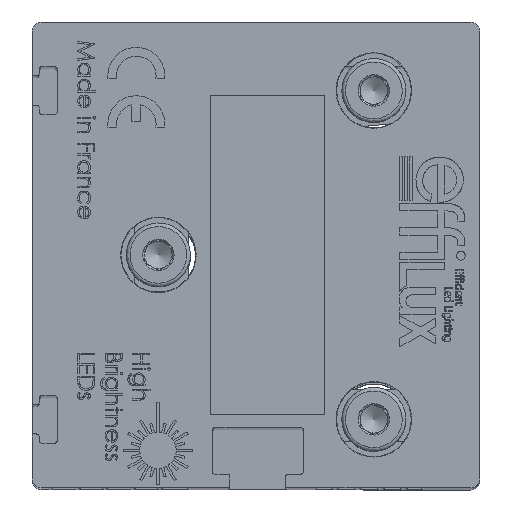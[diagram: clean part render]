
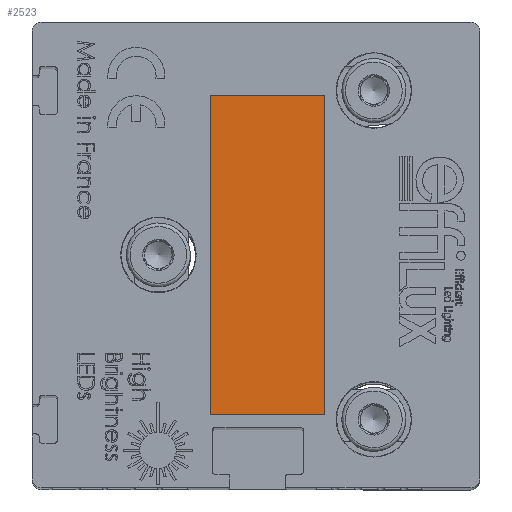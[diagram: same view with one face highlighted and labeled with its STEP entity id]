
A CAD part, top view. The second image highlights one B-rep face of the part: STEP entity #2523.
In plain terms, the highlighted planar face has unit normal (0, 0, 1).
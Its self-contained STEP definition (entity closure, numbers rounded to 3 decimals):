
#393 = CARTESIAN_POINT ( 'NONE',  ( -5., 17.5, 134.9 ) ) ;
#1987 = VECTOR ( 'NONE', #90012, 1000. ) ;
#2230 = ORIENTED_EDGE ( 'NONE', *, *, #9579, .T. ) ;
#2523 = ADVANCED_FACE ( 'NONE', ( #86497 ), #94830, .T. ) ;
#4488 = CARTESIAN_POINT ( 'NONE',  ( 7.5, 17.5, 134.9 ) ) ;
#4963 = LINE ( 'NONE', #62373, #1987 ) ;
#9579 = EDGE_CURVE ( 'NONE', #40036, #53301, #33927, .T. ) ;
#11932 = EDGE_CURVE ( 'NONE', #53301, #113660, #116118, .T. ) ;
#13153 = DIRECTION ( 'NONE',  ( 0., 1., 0. ) ) ;
#19326 = DIRECTION ( 'NONE',  ( -1., 0., 0. ) ) ;
#23550 = CARTESIAN_POINT ( 'NONE',  ( -5., 17.5, 134.9 ) ) ;
#27136 = VECTOR ( 'NONE', #13153, 1000. ) ;
#27723 = CARTESIAN_POINT ( 'NONE',  ( 7.5, -17.5, 134.9 ) ) ;
#28634 = CARTESIAN_POINT ( 'NONE',  ( 7.5, 17.5, 134.9 ) ) ;
#30582 = EDGE_CURVE ( 'NONE', #50965, #40036, #33055, .T. ) ;
#33055 = LINE ( 'NONE', #4488, #27136 ) ;
#33927 = LINE ( 'NONE', #73403, #103157 ) ;
#40036 = VERTEX_POINT ( 'NONE', #28634 ) ;
#47474 = DIRECTION ( 'NONE',  ( 0., -1., 0. ) ) ;
#50965 = VERTEX_POINT ( 'NONE', #27723 ) ;
#53301 = VERTEX_POINT ( 'NONE', #23550 ) ;
#54859 = DIRECTION ( 'NONE',  ( 0., 0., 1. ) ) ;
#62373 = CARTESIAN_POINT ( 'NONE',  ( 7.5, -17.5, 134.9 ) ) ;
#63506 = DIRECTION ( 'NONE',  ( 1., 0., 0. ) ) ;
#68612 = ORIENTED_EDGE ( 'NONE', *, *, #105494, .T. ) ;
#73403 = CARTESIAN_POINT ( 'NONE',  ( 7.5, 17.5, 134.9 ) ) ;
#73965 = CARTESIAN_POINT ( 'NONE',  ( -5., -17.5, 134.9 ) ) ;
#86497 = FACE_OUTER_BOUND ( 'NONE', #101918, .T. ) ;
#90012 = DIRECTION ( 'NONE',  ( 1., 0., 0. ) ) ;
#94830 = PLANE ( 'NONE',  #102277 ) ;
#101918 = EDGE_LOOP ( 'NONE', ( #2230, #122120, #68612, #114153 ) ) ;
#102277 = AXIS2_PLACEMENT_3D ( 'NONE', #113377, #54859, #63506 ) ;
#103157 = VECTOR ( 'NONE', #19326, 1000. ) ;
#105494 = EDGE_CURVE ( 'NONE', #113660, #50965, #4963, .T. ) ;
#113377 = CARTESIAN_POINT ( 'NONE',  ( -5., 17.5, 134.9 ) ) ;
#113660 = VERTEX_POINT ( 'NONE', #73965 ) ;
#114153 = ORIENTED_EDGE ( 'NONE', *, *, #30582, .T. ) ;
#116118 = LINE ( 'NONE', #393, #119107 ) ;
#119107 = VECTOR ( 'NONE', #47474, 1000. ) ;
#122120 = ORIENTED_EDGE ( 'NONE', *, *, #11932, .T. ) ;
